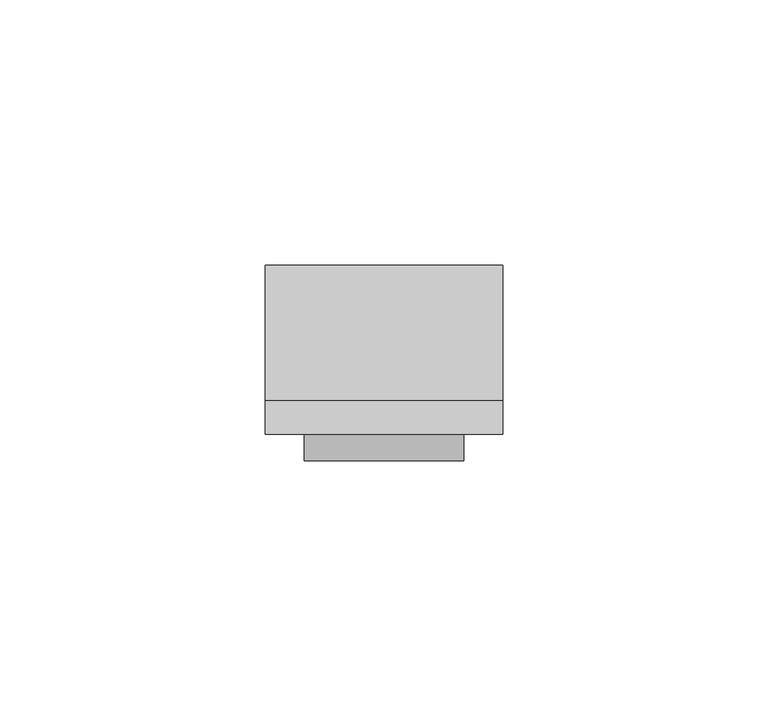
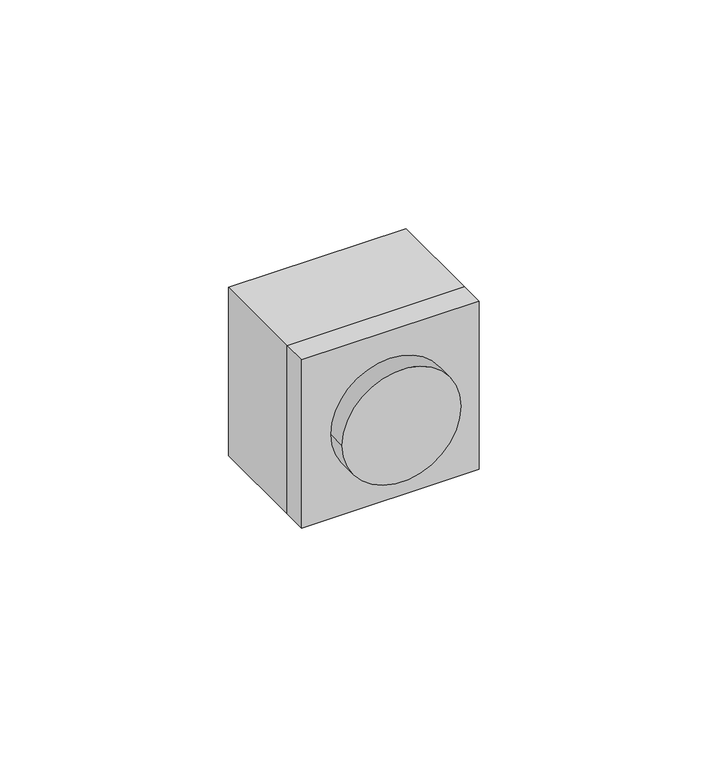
"""IFC4 building model written with IfcOpenShell, lengths in millimetres: proxy geometry."""

from ifc_helpers import new_model, si_unit, point, frame, frame_2d, origin, place, context, project, spatial, polyline, circle_curve, trimmed, segment, composite_curve, outline, extrude, source, transform, mapped, element, save


def electrical_fixtures_f6045c18(model_context):
    return source(origin(), model_context, "Body", "SweptSolid", [
        extrude(outline(composite_curve([segment(trimmed(circle_curve(frame_2d((0.0, 22.45)), 15.0), [point((0.0, 7.45))], [point((0.0, 37.45))], False, "CARTESIAN"), True, "CONTINUOUS"), segment(trimmed(circle_curve(frame_2d((0.0, 22.45)), 15.0), [point((0.0, 37.45))], [point((0.0, 7.45))], False, "CARTESIAN"), True, "CONTINUOUS")], self_intersect=False)), frame((0.0, -46.0, 0.0), z_axis=(0.0, 1.0, 0.0), x_axis=(0.0, 0.0, 1.0)), (0.0, 0.0, 1.0), 5.0),
        extrude(outline(polyline([(0.0, -34.7), (44.9, -34.7), (44.9, -41.0), (0.0, -41.0), (0.0, -34.7)])), frame((0.0, 0.0, -22.45), z_axis=(0.0, 0.0, 1.0), x_axis=(1.0, 0.0, 0.0)), (0.0, 0.0, 1.0), 44.9),
        extrude(outline(polyline([(44.9, -9.1), (44.9, -34.7), (0.0, -34.7), (0.0, -9.1), (44.9, -9.1)])), frame((0.0, 0.0, -22.45), z_axis=(0.0, 0.0, 1.0), x_axis=(1.0, 0.0, 0.0)), (0.0, 0.0, 1.0), 44.9),
    ])


if __name__ == "__main__":
    model = new_model("IFC4")
    model_context = context("Model", 3, world=origin())
    ifc_project = project(units=[si_unit("LENGTHUNIT", "METRE", prefix="MILLI")], contexts=[model_context])
    site = spatial("IfcSite", under=ifc_project)
    building = spatial("IfcBuilding", under=site)
    placement = place(None, origin())
    electrical_fixtures_shape = electrical_fixtures_f6045c18(model_context)
    element("IfcBuildingElementProxy", 1, Name="Electrical Fixtures", at=placement, inside=building, context=model_context, shape_type="MappedRepresentation", body=[
        mapped(electrical_fixtures_shape, transform((0.0, 0.0, 0.0), x_axis=(1.0, 0.0, 0.0), y_axis=(0.0, 1.0, 0.0), z_axis=(0.0, 0.0, 1.0))),
    ])
    save(model, "model.ifc")
